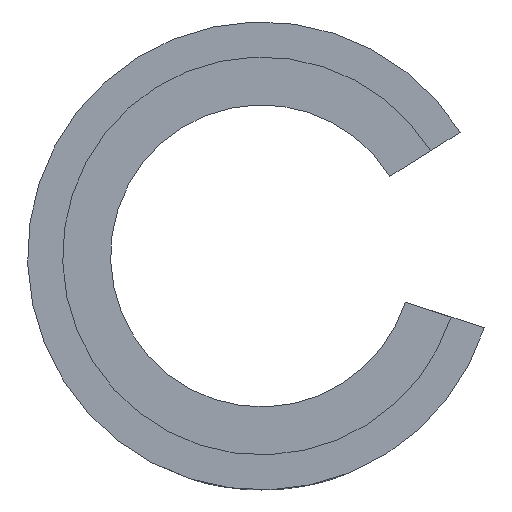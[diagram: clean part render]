
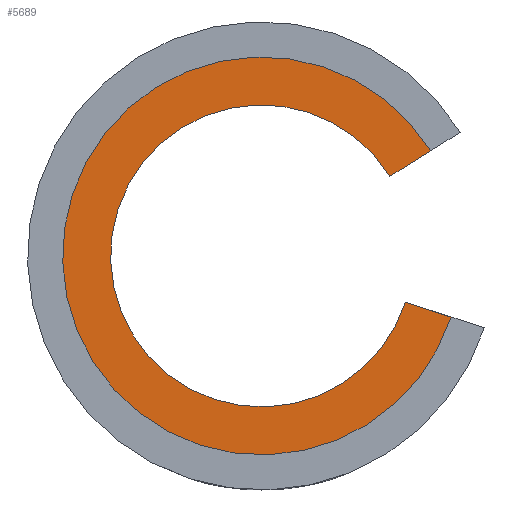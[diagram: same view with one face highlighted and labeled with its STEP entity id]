
A CAD part, left-side view. The second image highlights one B-rep face of the part: STEP entity #5689.
In plain terms, the highlighted planar face has unit normal (-1, 0, 0).
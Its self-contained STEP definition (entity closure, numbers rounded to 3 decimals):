
#115=PLANE('',#6127);
#384=CIRCLE('',#6126,26.35);
#385=CIRCLE('',#6128,20.);
#582=LINE('',#9013,#1074);
#583=LINE('',#9015,#1075);
#1074=VECTOR('',#6744,1000.);
#1075=VECTOR('',#6745,1000.);
#1729=ORIENTED_EDGE('',*,*,#3454,.F.);
#1730=ORIENTED_EDGE('',*,*,#3453,.T.);
#1731=ORIENTED_EDGE('',*,*,#3455,.F.);
#1732=ORIENTED_EDGE('',*,*,#3456,.F.);
#3453=EDGE_CURVE('',#4314,#4315,#384,.T.);
#3454=EDGE_CURVE('',#4314,#4316,#582,.T.);
#3455=EDGE_CURVE('',#4317,#4315,#583,.T.);
#3456=EDGE_CURVE('',#4316,#4317,#385,.T.);
#4314=VERTEX_POINT('',#9008);
#4315=VERTEX_POINT('',#9010);
#4316=VERTEX_POINT('',#9014);
#4317=VERTEX_POINT('',#9016);
#4869=EDGE_LOOP('',(#1729,#1730,#1731,#1732));
#5269=FACE_BOUND('',#4869,.T.);
#5689=ADVANCED_FACE('',(#5269),#115,.F.);
#6126=AXIS2_PLACEMENT_3D('',#9011,#6740,#6741);
#6127=AXIS2_PLACEMENT_3D('',#9012,#6742,#6743);
#6128=AXIS2_PLACEMENT_3D('',#9017,#6746,#6747);
#6740=DIRECTION('',(-1.,0.,0.));
#6741=DIRECTION('',(0.,0.,1.));
#6742=DIRECTION('',(1.,0.,0.));
#6743=DIRECTION('',(0.,0.,-1.));
#6744=DIRECTION('',(0.,0.848,-0.53));
#6745=DIRECTION('',(0.,-0.951,-0.309));
#6746=DIRECTION('',(-1.,0.,0.));
#6747=DIRECTION('',(0.,0.,1.));
#9008=CARTESIAN_POINT('',(4.,-22.377,13.914));
#9010=CARTESIAN_POINT('',(4.,-25.078,-8.088));
#9011=CARTESIAN_POINT('',(4.,0.,0.));
#9012=CARTESIAN_POINT('',(4.,26.35,0.));
#9013=CARTESIAN_POINT('',(4.,18.92,-11.891));
#9014=CARTESIAN_POINT('',(4.,-16.991,10.549));
#9015=CARTESIAN_POINT('',(4.,23.816,7.799));
#9016=CARTESIAN_POINT('',(4.,-19.039,-6.125));
#9017=CARTESIAN_POINT('',(4.,0.,0.));
